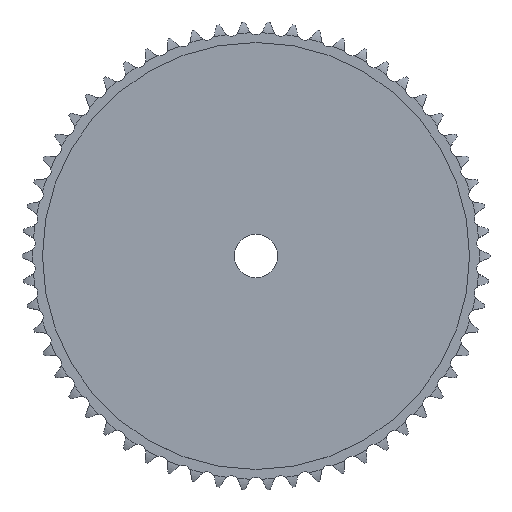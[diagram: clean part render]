
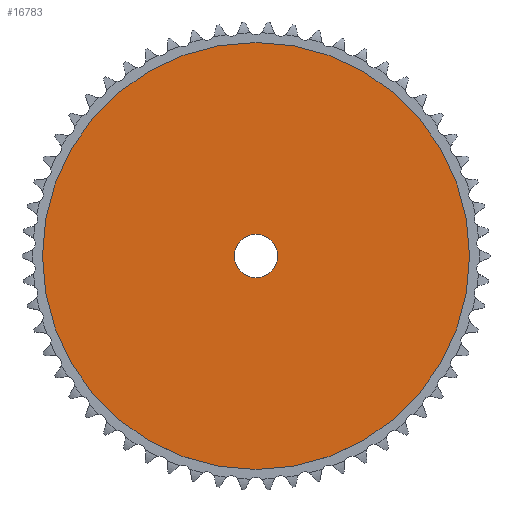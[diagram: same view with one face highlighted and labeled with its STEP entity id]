
A CAD part, top view. The second image highlights one B-rep face of the part: STEP entity #16783.
In plain terms, the highlighted planar face has unit normal (0, 0, 1).
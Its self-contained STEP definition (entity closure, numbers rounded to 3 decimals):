
#9462=CARTESIAN_POINT('',(0.,0.,2.));
#9463=DIRECTION('',(0.,0.,-1.));
#9464=DIRECTION('',(-1.,0.,0.));
#9465=AXIS2_PLACEMENT_3D('',#9462,#9463,#9464);
#9470=CARTESIAN_POINT('',(0.,0.,2.));
#9471=DIRECTION('',(0.,0.,-1.));
#9472=DIRECTION('',(1.,0.,0.));
#9473=AXIS2_PLACEMENT_3D('',#9470,#9471,#9472);
#9478=CARTESIAN_POINT('',(0.,0.,2.));
#9479=DIRECTION('',(0.,0.,1.));
#9480=DIRECTION('',(1.,0.,0.));
#9481=AXIS2_PLACEMENT_3D('',#9478,#9479,#9480);
#9486=CARTESIAN_POINT('',(0.,0.,2.));
#9487=DIRECTION('',(0.,0.,1.));
#9488=DIRECTION('',(-1.,0.,0.));
#9489=AXIS2_PLACEMENT_3D('',#9486,#9487,#9488);
#10526=CARTESIAN_POINT('',(-68.884,0.,2.));
#10527=CARTESIAN_POINT('',(68.884,0.,2.));
#10528=VERTEX_POINT('',#10526);
#10529=VERTEX_POINT('',#10527);
#10546=CARTESIAN_POINT('',(7.,0.,2.));
#10547=VERTEX_POINT('',#10546);
#10548=CARTESIAN_POINT('',(-7.,0.,2.));
#10549=VERTEX_POINT('',#10548);
#16768=CARTESIAN_POINT('',(0.,0.,2.));
#16769=DIRECTION('',(0.,0.,1.));
#16770=DIRECTION('',(1.,0.,0.));
#16771=AXIS2_PLACEMENT_3D('',#16768,#16769,#16770);
#16772=PLANE('',#16771);
#16773=ORIENTED_EDGE('',*,*,#16720,.T.);
#16774=ORIENTED_EDGE('',*,*,#16749,.T.);
#16775=EDGE_LOOP('',(#16773,#16774));
#16776=FACE_OUTER_BOUND('',#16775,.F.);
#16778=ORIENTED_EDGE('',*,*,#16777,.T.);
#16780=ORIENTED_EDGE('',*,*,#16779,.T.);
#16781=EDGE_LOOP('',(#16778,#16780));
#16782=FACE_BOUND('',#16781,.F.);
#16783=ADVANCED_FACE('',(#16776,#16782),#16772,.T.);
#9466=CIRCLE('',#9465,68.884);
#9474=CIRCLE('',#9473,68.884);
#9482=CIRCLE('',#9481,7.);
#9490=CIRCLE('',#9489,7.);
#16720=EDGE_CURVE('',#10528,#10529,#9466,.T.);
#16749=EDGE_CURVE('',#10529,#10528,#9474,.T.);
#16777=EDGE_CURVE('',#10547,#10549,#9482,.T.);
#16779=EDGE_CURVE('',#10549,#10547,#9490,.T.);
